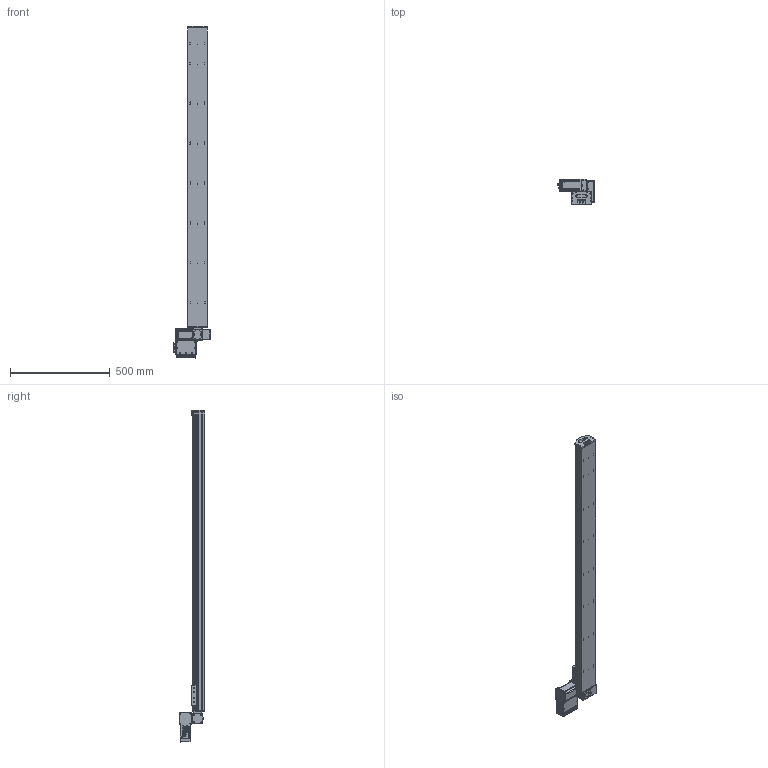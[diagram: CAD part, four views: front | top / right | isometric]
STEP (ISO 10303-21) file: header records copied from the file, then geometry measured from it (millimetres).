
FILE_DESCRIPTION (( 'STEP AP203' ), '1' );
FILE_NAME ('S10 TBN LT S1500.STEP', '2012-06-19T12:58:50', ( 'Conseil Régional Haute-Normandie' ), ( 'Conseil Régional Haute-Normandie' ), 'SwSTEP 2.0', 'SolidWorks 2010', '' );
FILE_SCHEMA (( 'CONFIG_CONTROL_DESIGN' ));
Length unit declared in the file: millimetre
Products named in the file (29): T_X2_00F4_X0_le contre le moteur_5; BU41 Carte Alimentation P05_3; T_X2_00F4_X0_le fond_3; Connecteur rond D10 3cts_5; T_X2_00F4_X0_le lat_X2_00E9_X0_rale_5; T_X2_00F4_X0_le Arri_X2_00E8_X0_re_5; Vis TF 3 torkx_1_1; plaque de bout s10_Default; Plaque racord_Default; axe 1500; S10 TBN LT S1500; Cvis M5 L30_Default; Assem1_7; Colonnette_3; BU45 Carte d''axe A11_5; Moteur 60BLDC90A_3; Couvercle_3; Connecteur rond D12 4cts_5; Sub D 9cts 90_X2_00B_X0__3; Radiateur profil_X2_00E9_X0_ 100x25_3; Colonnette ronde_3; cache t皻e axe_Default; cache t皻e_Default; embout; palette tbn; renvoi LH_Default; vis M5 L12_Default; Vis M5 L16-2_Default_1; vis M5 L5_Default
Assembly tree (62 placements, depth 3):
  S10 TBN LT S1500
    Cvis M5 L30_Default  x2
    cache t皻e axe_Default
    Vis M5 L16-2_Default_1  x4
    renvoi LH_Default
    axe 1500
    cache t皻e_Default  x2
    vis M5 L12_Default  x4
    vis M5 L5_Default  x4
    embout
    Plaque racord_Default
    plaque de bout s10_Default
    palette tbn
    Assem1_7
      T_X2_00F4_X0_le Arri_X2_00E8_X0_re_5
      Vis TF 3 torkx_1_1  x21
      Colonnette_3  x2
      T_X2_00F4_X0_le fond_3
      T_X2_00F4_X0_le lat_X2_00E9_X0_rale_5  x2
      T_X2_00F4_X0_le contre le moteur_5
      Connecteur rond D12 4cts_5
      Connecteur rond D10 3cts_5  x2
      Colonnette ronde_3
      Sub D 9cts 90_X2_00B_X0__3
      Moteur 60BLDC90A_3
      Couvercle_3
      Radiateur profil_X2_00E9_X0_ 100x25_3
      BU41 Carte Alimentation P05_3
      BU45 Carte d''axe A11_5
Bounding box: 189.8 x 127 x 1666.51 mm (x, y, z)
Volume: 8650438.6 mm3; surface area: 1036302 mm2
Topology: 61 solids, 61 shells, 2321 faces, 5754 edges, 3707 vertices
Faces by surface type: plane 1102, cylinder 994, cone 182, bspline 40, torus 3
Entity records: 48307 total; most frequent: CARTESIAN_POINT 8712, DIRECTION 7805, ORIENTED_EDGE 7088, EDGE_CURVE 3544, AXIS2_PLACEMENT_3D 2899, VERTEX_POINT 2311, VECTOR 2007, LINE 2007
